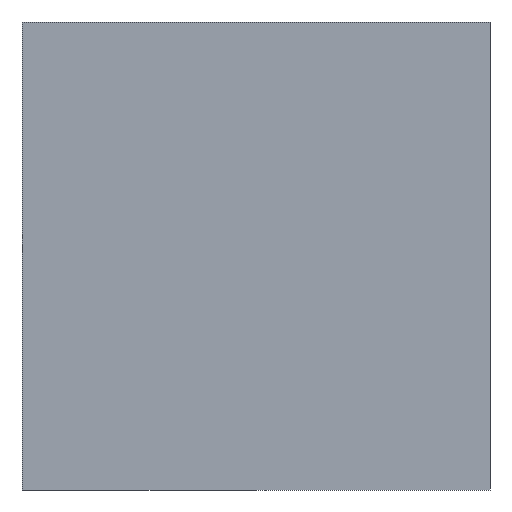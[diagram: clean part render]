
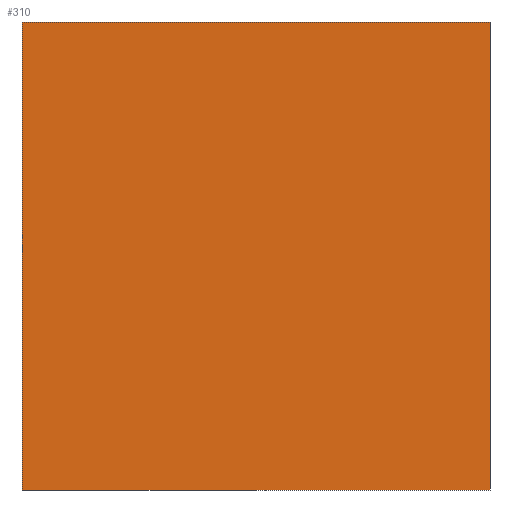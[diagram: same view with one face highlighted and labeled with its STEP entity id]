
A CAD part, left-side view. The second image highlights one B-rep face of the part: STEP entity #310.
In plain terms, the highlighted planar face has unit normal (-1, 0, 0).
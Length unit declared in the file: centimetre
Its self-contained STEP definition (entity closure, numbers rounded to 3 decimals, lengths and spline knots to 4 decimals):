
#13 = DIRECTION ( 'NONE',  ( 0., 0., -1. ) ) ;
#20 = EDGE_CURVE ( 'NONE', #550, #561, #191, .T. ) ;
#50 = EDGE_CURVE ( 'NONE', #679, #561, #308, .T. ) ;
#51 = LINE ( 'NONE', #483, #130 ) ;
#83 = DIRECTION ( 'NONE',  ( 0., 0., -1. ) ) ;
#84 = VECTOR ( 'NONE', #13, 100. ) ;
#101 = CARTESIAN_POINT ( 'NONE',  ( 0., 0., 1000. ) ) ;
#107 = EDGE_LOOP ( 'NONE', ( #469, #516, #524, #125 ) ) ;
#125 = ORIENTED_EDGE ( 'NONE', *, *, #317, .T. ) ;
#130 = VECTOR ( 'NONE', #548, 100. ) ;
#146 = DIRECTION ( 'NONE',  ( 0., -1., 0. ) ) ;
#170 = PLANE ( 'NONE',  #186 ) ;
#178 = VECTOR ( 'NONE', #83, 100. ) ;
#186 = AXIS2_PLACEMENT_3D ( 'NONE', #401, #514, #507 ) ;
#191 = LINE ( 'NONE', #359, #691 ) ;
#203 = CARTESIAN_POINT ( 'NONE',  ( 0., 1000., 0. ) ) ;
#273 = CARTESIAN_POINT ( 'NONE',  ( 0., 0., 0. ) ) ;
#294 = FACE_OUTER_BOUND ( 'NONE', #107, .T. ) ;
#308 = LINE ( 'NONE', #575, #178 ) ;
#310 = ADVANCED_FACE ( 'NONE', ( #294 ), #170, .F. ) ;
#317 = EDGE_CURVE ( 'NONE', #501, #550, #512, .T. ) ;
#359 = CARTESIAN_POINT ( 'NONE',  ( 0., 1000., 0. ) ) ;
#391 = CARTESIAN_POINT ( 'NONE',  ( 0., 1000., 1000. ) ) ;
#401 = CARTESIAN_POINT ( 'NONE',  ( 0., 1000., 1000. ) ) ;
#469 = ORIENTED_EDGE ( 'NONE', *, *, #20, .T. ) ;
#483 = CARTESIAN_POINT ( 'NONE',  ( 0., 1000., 1000. ) ) ;
#501 = VERTEX_POINT ( 'NONE', #678 ) ;
#507 = DIRECTION ( 'NONE',  ( 0., 0., -1. ) ) ;
#512 = LINE ( 'NONE', #391, #84 ) ;
#514 = DIRECTION ( 'NONE',  ( 1., 0., 0. ) ) ;
#516 = ORIENTED_EDGE ( 'NONE', *, *, #50, .F. ) ;
#524 = ORIENTED_EDGE ( 'NONE', *, *, #545, .F. ) ;
#545 = EDGE_CURVE ( 'NONE', #501, #679, #51, .T. ) ;
#548 = DIRECTION ( 'NONE',  ( 0., -1., 0. ) ) ;
#550 = VERTEX_POINT ( 'NONE', #203 ) ;
#561 = VERTEX_POINT ( 'NONE', #273 ) ;
#575 = CARTESIAN_POINT ( 'NONE',  ( 0., 0., 1000. ) ) ;
#678 = CARTESIAN_POINT ( 'NONE',  ( 0., 1000., 1000. ) ) ;
#679 = VERTEX_POINT ( 'NONE', #101 ) ;
#691 = VECTOR ( 'NONE', #146, 100. ) ;
